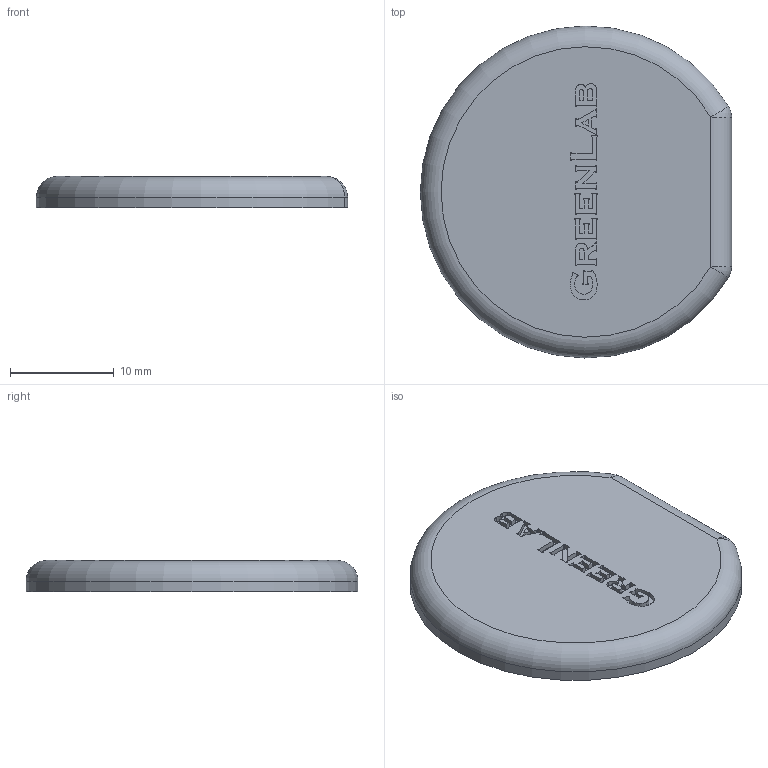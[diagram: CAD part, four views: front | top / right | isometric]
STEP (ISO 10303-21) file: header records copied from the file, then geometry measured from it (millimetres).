
FILE_DESCRIPTION (( 'STEP AP214' ), '1' );
FILE_NAME ('1.1029 Päätysuoja kahvaprofiilille 32.STEP', '2025-09-03T09:03:59', ( '' ), ( '' ), 'SwSTEP 2.0', 'SolidWorks 2025', '' );
FILE_SCHEMA (( 'AUTOMOTIVE_DESIGN' ));
Length unit declared in the file: millimetre
Products named in the file (1): 1.1029 Päätysuoja kahvaprofiilille 32
Bounding box: 30 x 32 x 3 mm (x, y, z)
Volume: 2255.8 mm3; surface area: 1832.3 mm2
Topology: 1 solids, 1 shells, 232 faces, 648 edges, 430 vertices
Faces by surface type: plane 140, bspline 85, cylinder 4, sphere 2, torus 1
Entity records: 10040 total; most frequent: CARTESIAN_POINT 4628, ORIENTED_EDGE 1296, DIRECTION 785, EDGE_CURVE 648, VECTOR 467, LINE 467, VERTEX_POINT 430, EDGE_LOOP 244
